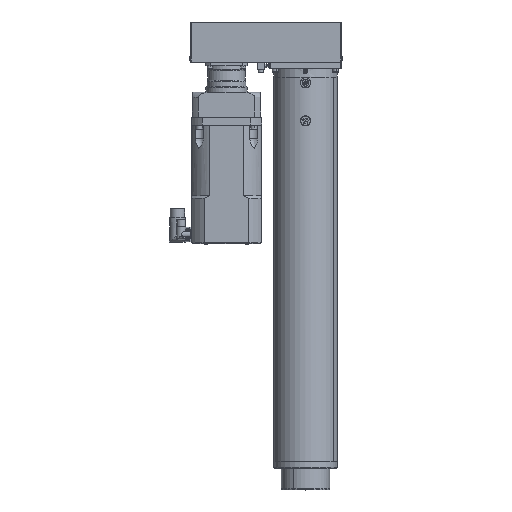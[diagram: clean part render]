
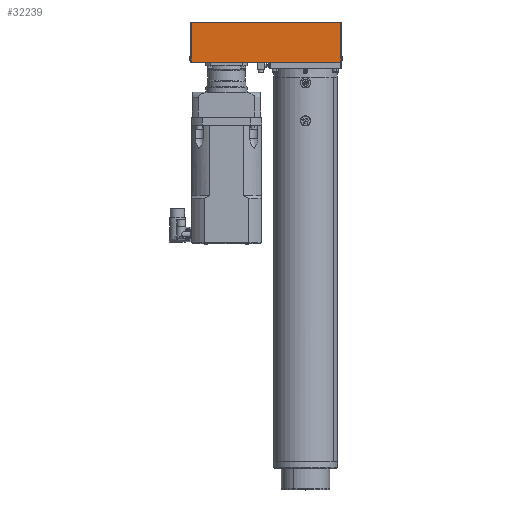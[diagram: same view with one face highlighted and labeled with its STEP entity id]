
A CAD part, top view. The second image highlights one B-rep face of the part: STEP entity #32239.
In plain terms, the highlighted planar face has unit normal (0, 0, 1).
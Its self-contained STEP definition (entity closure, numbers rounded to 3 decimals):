
#74 = CARTESIAN_POINT ( 'NONE',  ( -418.5, 1241.5, 199.5 ) ) ;
#243 = CARTESIAN_POINT ( 'NONE',  ( -1., 1241.5, 199.5 ) ) ;
#770 = LINE ( 'NONE', #23127, #4291 ) ;
#1031 = ORIENTED_EDGE ( 'NONE', *, *, #22384, .T. ) ;
#1149 = VERTEX_POINT ( 'NONE', #74 ) ;
#2206 = DIRECTION ( 'NONE',  ( 0., -1., 0. ) ) ;
#3604 = DIRECTION ( 'NONE',  ( -1., 0., 0. ) ) ;
#4291 = VECTOR ( 'NONE', #23676, 1000. ) ;
#4518 = DIRECTION ( 'NONE',  ( 0., 0., -1. ) ) ;
#6732 = EDGE_LOOP ( 'NONE', ( #1031, #21922, #32511, #33199 ) ) ;
#8628 = EDGE_CURVE ( 'NONE', #36239, #26962, #30673, .T. ) ;
#9783 = CARTESIAN_POINT ( 'NONE',  ( -419.5, 1241.5, 199.5 ) ) ;
#11931 = CARTESIAN_POINT ( 'NONE',  ( -418.5, 1242., 199.5 ) ) ;
#13509 = VERTEX_POINT ( 'NONE', #31400 ) ;
#14016 = CARTESIAN_POINT ( 'NONE',  ( -1., 1132., 199.5 ) ) ;
#14167 = VECTOR ( 'NONE', #35571, 1000. ) ;
#18009 = DIRECTION ( 'NONE',  ( -1., 0., 0. ) ) ;
#20596 = PLANE ( 'NONE',  #29060 ) ;
#21583 = LINE ( 'NONE', #9783, #28759 ) ;
#21922 = ORIENTED_EDGE ( 'NONE', *, *, #8628, .T. ) ;
#22384 = EDGE_CURVE ( 'NONE', #13509, #36239, #770, .T. ) ;
#23127 = CARTESIAN_POINT ( 'NONE',  ( -418., 1132., 199.5 ) ) ;
#23213 = FACE_OUTER_BOUND ( 'NONE', #6732, .T. ) ;
#23676 = DIRECTION ( 'NONE',  ( 1., 0., 0. ) ) ;
#24315 = EDGE_CURVE ( 'NONE', #26962, #1149, #21583, .T. ) ;
#25479 = CARTESIAN_POINT ( 'NONE',  ( -1., 1242., 199.5 ) ) ;
#25777 = LINE ( 'NONE', #11931, #38693 ) ;
#26962 = VERTEX_POINT ( 'NONE', #243 ) ;
#28759 = VECTOR ( 'NONE', #3604, 1000. ) ;
#29060 = AXIS2_PLACEMENT_3D ( 'NONE', #40519, #4518, #18009 ) ;
#29871 = EDGE_CURVE ( 'NONE', #1149, #13509, #25777, .T. ) ;
#30673 = LINE ( 'NONE', #25479, #14167 ) ;
#31400 = CARTESIAN_POINT ( 'NONE',  ( -418.5, 1132., 199.5 ) ) ;
#32239 = ADVANCED_FACE ( 'NONE', ( #23213 ), #20596, .F. ) ;
#32511 = ORIENTED_EDGE ( 'NONE', *, *, #24315, .T. ) ;
#33199 = ORIENTED_EDGE ( 'NONE', *, *, #29871, .T. ) ;
#35571 = DIRECTION ( 'NONE',  ( 0., 1., 0. ) ) ;
#36239 = VERTEX_POINT ( 'NONE', #14016 ) ;
#38693 = VECTOR ( 'NONE', #2206, 1000. ) ;
#40519 = CARTESIAN_POINT ( 'NONE',  ( -418., 1242., 199.5 ) ) ;
